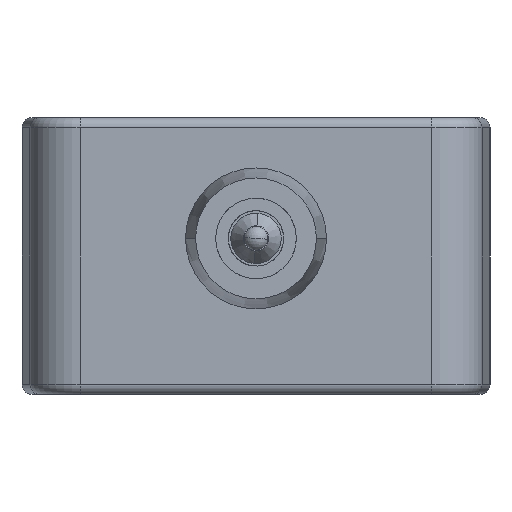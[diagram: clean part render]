
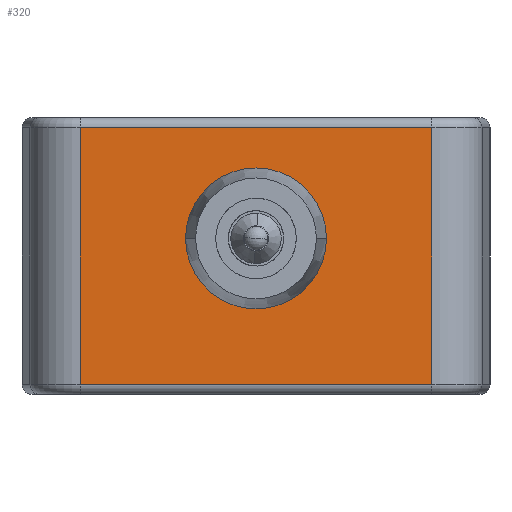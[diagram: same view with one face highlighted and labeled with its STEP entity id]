
A CAD part, front view. The second image highlights one B-rep face of the part: STEP entity #320.
In plain terms, the highlighted planar face has unit normal (0, -1, 0) by its records, which use the part's own axes.
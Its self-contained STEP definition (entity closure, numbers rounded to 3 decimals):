
#320=ADVANCED_FACE('NONE',(#624,#625),#446,.F.);
#446=PLANE('',#2278);
#498=CIRCLE('',#2277,7.);
#624=FACE_BOUND('',#695,.T.);
#625=FACE_BOUND('',#696,.T.);
#695=EDGE_LOOP('',(#903));
#696=EDGE_LOOP('',(#904,#905,#906,#907));
#903=ORIENTED_EDGE('',*,*,#1748,.T.);
#904=ORIENTED_EDGE('',*,*,#1746,.T.);
#905=ORIENTED_EDGE('',*,*,#1749,.T.);
#906=ORIENTED_EDGE('',*,*,#1718,.T.);
#907=ORIENTED_EDGE('',*,*,#1750,.T.);
#1501=VERTEX_POINT('',#3215);
#1502=VERTEX_POINT('',#3216);
#1519=VERTEX_POINT('',#3269);
#1520=VERTEX_POINT('',#3271);
#1521=VERTEX_POINT('',#3275);
#1718=EDGE_CURVE('',#1501,#1502,#2030,.T.);
#1746=EDGE_CURVE('',#1520,#1519,#2047,.T.);
#1748=EDGE_CURVE('',#1521,#1521,#498,.T.);
#1749=EDGE_CURVE('',#1519,#1501,#2048,.T.);
#1750=EDGE_CURVE('',#1502,#1520,#2049,.T.);
#2030=LINE('',#3214,#2143);
#2047=LINE('',#3270,#2160);
#2048=LINE('',#3276,#2161);
#2049=LINE('',#3277,#2162);
#2143=VECTOR('',#2547,1.);
#2160=VECTOR('',#2604,1.);
#2161=VECTOR('',#2611,1.);
#2162=VECTOR('',#2612,1.);
#2277=AXIS2_PLACEMENT_3D('',#3274,#2609,#2610);
#2278=AXIS2_PLACEMENT_3D('',#3278,#2613,#2614);
#2547=DIRECTION('',(0.,0.,1.));
#2604=DIRECTION('',(0.,0.,-1.));
#2609=DIRECTION('',(0.,1.,0.));
#2610=DIRECTION('',(0.,0.,1.));
#2611=DIRECTION('',(1.,0.,0.));
#2612=DIRECTION('',(-1.,0.,0.));
#2613=DIRECTION('',(0.,1.,0.));
#2614=DIRECTION('',(0.,0.,1.));
#3214=CARTESIAN_POINT('',(14.82,-10.753,9.));
#3215=CARTESIAN_POINT('',(14.82,-10.753,-14.5));
#3216=CARTESIAN_POINT('',(14.82,-10.753,11.));
#3269=CARTESIAN_POINT('',(-20.122,-10.753,-14.5));
#3270=CARTESIAN_POINT('',(-20.122,-10.753,-12.5));
#3271=CARTESIAN_POINT('',(-20.122,-10.753,11.));
#3274=CARTESIAN_POINT('',(-2.651,-10.753,0.));
#3275=CARTESIAN_POINT('',(-2.651,-10.753,7.));
#3276=CARTESIAN_POINT('',(13.638,-10.753,-14.5));
#3277=CARTESIAN_POINT('',(-18.939,-10.753,11.));
#3278=CARTESIAN_POINT('',(-24.651,-10.753,9.));
